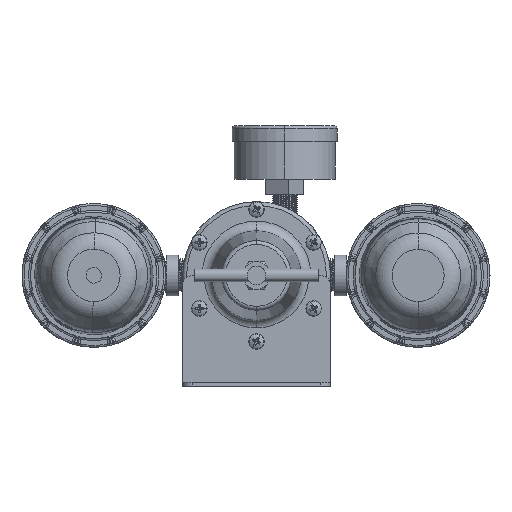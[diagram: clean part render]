
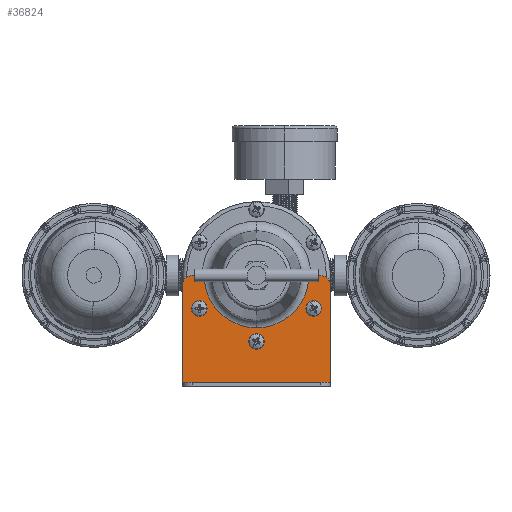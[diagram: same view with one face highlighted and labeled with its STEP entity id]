
A CAD part, front view. The second image highlights one B-rep face of the part: STEP entity #36824.
In plain terms, the highlighted planar face has unit normal (0, -1, 0) as drawn and (0, 1, 0) by its records, which use the part's own axes.
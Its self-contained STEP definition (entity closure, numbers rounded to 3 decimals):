
#227 = CARTESIAN_POINT ( 'NONE',  ( 0., 2., 0. ) ) ;
#303 = VERTEX_POINT ( 'NONE', #32234 ) ;
#948 = EDGE_LOOP ( 'NONE', ( #1146, #37773 ) ) ;
#956 = VERTEX_POINT ( 'NONE', #39445 ) ;
#968 = AXIS2_PLACEMENT_3D ( 'NONE', #227, #35557, #5334 ) ;
#1146 = ORIENTED_EDGE ( 'NONE', *, *, #19898, .F. ) ;
#1770 = DIRECTION ( 'NONE',  ( 0., 1., 0. ) ) ;
#2425 = CARTESIAN_POINT ( 'NONE',  ( -38., 2., 57. ) ) ;
#3093 = CARTESIAN_POINT ( 'NONE',  ( -33., 2., 52. ) ) ;
#3936 = VERTEX_POINT ( 'NONE', #57264 ) ;
#4248 = DIRECTION ( 'NONE',  ( 0., 0., 1. ) ) ;
#4659 = AXIS2_PLACEMENT_3D ( 'NONE', #57413, #50151, #50597 ) ;
#4918 = CARTESIAN_POINT ( 'NONE',  ( 33., 2., 52. ) ) ;
#5014 = ORIENTED_EDGE ( 'NONE', *, *, #38543, .F. ) ;
#5042 = CARTESIAN_POINT ( 'NONE',  ( 38., 2., 0. ) ) ;
#5063 = DIRECTION ( 'NONE',  ( 0., 1., 0. ) ) ;
#5334 = DIRECTION ( 'NONE',  ( 0., 0., 1. ) ) ;
#6451 = ORIENTED_EDGE ( 'NONE', *, *, #26372, .T. ) ;
#7071 = DIRECTION ( 'NONE',  ( 0., 0., 1. ) ) ;
#7944 = DIRECTION ( 'NONE',  ( 0., 0., 1. ) ) ;
#8775 = CIRCLE ( 'NONE', #24944, 2.9 ) ;
#9192 = EDGE_CURVE ( 'NONE', #27090, #40241, #38878, .T. ) ;
#9356 = CIRCLE ( 'NONE', #29885, 2. ) ;
#9508 = CARTESIAN_POINT ( 'NONE',  ( -38., 2., 57. ) ) ;
#9658 = ORIENTED_EDGE ( 'NONE', *, *, #45887, .F. ) ;
#9855 = AXIS2_PLACEMENT_3D ( 'NONE', #3093, #58818, #7944 ) ;
#10194 = CARTESIAN_POINT ( 'NONE',  ( 0., 2., 2. ) ) ;
#11217 = DIRECTION ( 'NONE',  ( 0., 0., 1. ) ) ;
#11435 = DIRECTION ( 'NONE',  ( 0., 1., 0. ) ) ;
#11499 = CARTESIAN_POINT ( 'NONE',  ( 0., 2., 23. ) ) ;
#12129 = CIRCLE ( 'NONE', #64871, 2.9 ) ;
#12788 = EDGE_CURVE ( 'NONE', #37732, #60168, #52107, .T. ) ;
#13121 = CARTESIAN_POINT ( 'NONE',  ( -29.445, 2., 37.1 ) ) ;
#13432 = EDGE_CURVE ( 'NONE', #37732, #41387, #9356, .T. ) ;
#14642 = CARTESIAN_POINT ( 'NONE',  ( 0., 2., 57. ) ) ;
#15472 = CARTESIAN_POINT ( 'NONE',  ( -38., 2., 52. ) ) ;
#16093 = FACE_OUTER_BOUND ( 'NONE', #40958, .T. ) ;
#16310 = CARTESIAN_POINT ( 'NONE',  ( 28.931, 2., 55. ) ) ;
#16335 = EDGE_CURVE ( 'NONE', #17040, #956, #36876, .T. ) ;
#17040 = VERTEX_POINT ( 'NONE', #51734 ) ;
#17080 = CARTESIAN_POINT ( 'NONE',  ( -28.931, 2., 55. ) ) ;
#19073 = VERTEX_POINT ( 'NONE', #64221 ) ;
#19703 = CIRCLE ( 'NONE', #38345, 2. ) ;
#19841 = CARTESIAN_POINT ( 'NONE',  ( -29.445, 2., 40. ) ) ;
#19898 = EDGE_CURVE ( 'NONE', #40241, #27090, #8775, .T. ) ;
#21614 = VECTOR ( 'NONE', #25530, 1000. ) ;
#22730 = CARTESIAN_POINT ( 'NONE',  ( -28.931, 2., 57. ) ) ;
#22924 = CARTESIAN_POINT ( 'NONE',  ( -26.936, 2., 55.138 ) ) ;
#23663 = DIRECTION ( 'NONE',  ( 0., 1., 0. ) ) ;
#23973 = AXIS2_PLACEMENT_3D ( 'NONE', #14642, #55341, #45123 ) ;
#24548 = ORIENTED_EDGE ( 'NONE', *, *, #16335, .F. ) ;
#24746 = FACE_BOUND ( 'NONE', #32208, .T. ) ;
#24899 = CIRCLE ( 'NONE', #9855, 5. ) ;
#24944 = AXIS2_PLACEMENT_3D ( 'NONE', #11499, #25855, #51727 ) ;
#25530 = DIRECTION ( 'NONE',  ( 0., 0., -1. ) ) ;
#25720 = CARTESIAN_POINT ( 'NONE',  ( 28.931, 2., 57. ) ) ;
#25851 = VERTEX_POINT ( 'NONE', #13121 ) ;
#25855 = DIRECTION ( 'NONE',  ( 0., 1., 0. ) ) ;
#26372 = EDGE_CURVE ( 'NONE', #35736, #3936, #24899, .T. ) ;
#26385 = AXIS2_PLACEMENT_3D ( 'NONE', #64174, #33848, #4248 ) ;
#27090 = VERTEX_POINT ( 'NONE', #46887 ) ;
#28047 = EDGE_CURVE ( 'NONE', #956, #17040, #30361, .T. ) ;
#28218 = EDGE_CURVE ( 'NONE', #303, #28577, #35887, .T. ) ;
#28560 = LINE ( 'NONE', #2425, #53157 ) ;
#28577 = VERTEX_POINT ( 'NONE', #54795 ) ;
#29885 = AXIS2_PLACEMENT_3D ( 'NONE', #16310, #11435, #11217 ) ;
#30361 = CIRCLE ( 'NONE', #26385, 2.9 ) ;
#30934 = CARTESIAN_POINT ( 'NONE',  ( -29.445, 2., 42.9 ) ) ;
#31462 = VECTOR ( 'NONE', #59931, 1000. ) ;
#31621 = ORIENTED_EDGE ( 'NONE', *, *, #42366, .T. ) ;
#32029 = EDGE_LOOP ( 'NONE', ( #42377, #24548 ) ) ;
#32208 = EDGE_LOOP ( 'NONE', ( #9658, #40472 ) ) ;
#32213 = CARTESIAN_POINT ( 'NONE',  ( -29.445, 2., 40. ) ) ;
#32234 = CARTESIAN_POINT ( 'NONE',  ( 33., 2., 57. ) ) ;
#32675 = FACE_BOUND ( 'NONE', #948, .T. ) ;
#33848 = DIRECTION ( 'NONE',  ( 0., 1., 0. ) ) ;
#35254 = CIRCLE ( 'NONE', #58725, 2.9 ) ;
#35557 = DIRECTION ( 'NONE',  ( 0., 1., 0. ) ) ;
#35736 = VERTEX_POINT ( 'NONE', #15472 ) ;
#35887 = CIRCLE ( 'NONE', #63330, 5. ) ;
#36283 = EDGE_CURVE ( 'NONE', #28577, #52441, #48571, .T. ) ;
#36824 = ADVANCED_FACE ( 'NONE', ( #24746, #61959, #32675, #16093 ), #55727, .T. ) ;
#36876 = CIRCLE ( 'NONE', #4659, 2.9 ) ;
#37732 = VERTEX_POINT ( 'NONE', #64549 ) ;
#37773 = ORIENTED_EDGE ( 'NONE', *, *, #9192, .F. ) ;
#37787 = DIRECTION ( 'NONE',  ( 1., 0., 0. ) ) ;
#38345 = AXIS2_PLACEMENT_3D ( 'NONE', #17080, #23663, #64162 ) ;
#38543 = EDGE_CURVE ( 'NONE', #19073, #52441, #63491, .T. ) ;
#38795 = EDGE_CURVE ( 'NONE', #41387, #303, #28560, .T. ) ;
#38878 = CIRCLE ( 'NONE', #43250, 2.9 ) ;
#39335 = DIRECTION ( 'NONE',  ( 0., 0., 1. ) ) ;
#39445 = CARTESIAN_POINT ( 'NONE',  ( 29.445, 2., 42.9 ) ) ;
#39915 = VERTEX_POINT ( 'NONE', #22730 ) ;
#40122 = LINE ( 'NONE', #50306, #52846 ) ;
#40241 = VERTEX_POINT ( 'NONE', #45893 ) ;
#40368 = CARTESIAN_POINT ( 'NONE',  ( 38., 2., 2. ) ) ;
#40472 = ORIENTED_EDGE ( 'NONE', *, *, #54611, .F. ) ;
#40958 = EDGE_LOOP ( 'NONE', ( #52087, #55089, #60067, #5014, #47566, #6451, #31621, #61872, #59549, #43822 ) ) ;
#41387 = VERTEX_POINT ( 'NONE', #25720 ) ;
#42366 = EDGE_CURVE ( 'NONE', #3936, #39915, #62418, .T. ) ;
#42377 = ORIENTED_EDGE ( 'NONE', *, *, #28047, .F. ) ;
#43250 = AXIS2_PLACEMENT_3D ( 'NONE', #45692, #5063, #60756 ) ;
#43822 = ORIENTED_EDGE ( 'NONE', *, *, #13432, .T. ) ;
#45123 = DIRECTION ( 'NONE',  ( 0., 0., 1. ) ) ;
#45541 = DIRECTION ( 'NONE',  ( 0., 0., 1. ) ) ;
#45692 = CARTESIAN_POINT ( 'NONE',  ( 0., 2., 23. ) ) ;
#45887 = EDGE_CURVE ( 'NONE', #57381, #25851, #12129, .T. ) ;
#45893 = CARTESIAN_POINT ( 'NONE',  ( 0., 2., 25.9 ) ) ;
#46887 = CARTESIAN_POINT ( 'NONE',  ( 0., 2., 20.1 ) ) ;
#47566 = ORIENTED_EDGE ( 'NONE', *, *, #56833, .T. ) ;
#48571 = LINE ( 'NONE', #5042, #21614 ) ;
#49389 = EDGE_CURVE ( 'NONE', #39915, #60168, #19703, .T. ) ;
#50032 = VECTOR ( 'NONE', #50657, 1000. ) ;
#50151 = DIRECTION ( 'NONE',  ( 0., 1., 0. ) ) ;
#50306 = CARTESIAN_POINT ( 'NONE',  ( -38., 2., 0. ) ) ;
#50597 = DIRECTION ( 'NONE',  ( 0., 0., 1. ) ) ;
#50657 = DIRECTION ( 'NONE',  ( 1., 0., 0. ) ) ;
#51727 = DIRECTION ( 'NONE',  ( 0., 0., 1. ) ) ;
#51734 = CARTESIAN_POINT ( 'NONE',  ( 29.445, 2., 37.1 ) ) ;
#52087 = ORIENTED_EDGE ( 'NONE', *, *, #38795, .T. ) ;
#52107 = CIRCLE ( 'NONE', #23973, 27. ) ;
#52441 = VERTEX_POINT ( 'NONE', #40368 ) ;
#52846 = VECTOR ( 'NONE', #60483, 1000. ) ;
#53157 = VECTOR ( 'NONE', #37787, 1000. ) ;
#54611 = EDGE_CURVE ( 'NONE', #25851, #57381, #35254, .T. ) ;
#54795 = CARTESIAN_POINT ( 'NONE',  ( 38., 2., 52. ) ) ;
#55089 = ORIENTED_EDGE ( 'NONE', *, *, #28218, .T. ) ;
#55341 = DIRECTION ( 'NONE',  ( 0., 1., 0. ) ) ;
#55727 = PLANE ( 'NONE',  #968 ) ;
#56833 = EDGE_CURVE ( 'NONE', #19073, #35736, #40122, .T. ) ;
#57264 = CARTESIAN_POINT ( 'NONE',  ( -33., 2., 57. ) ) ;
#57381 = VERTEX_POINT ( 'NONE', #30934 ) ;
#57413 = CARTESIAN_POINT ( 'NONE',  ( 29.445, 2., 40. ) ) ;
#58725 = AXIS2_PLACEMENT_3D ( 'NONE', #32213, #1770, #7071 ) ;
#58818 = DIRECTION ( 'NONE',  ( 0., 1., 0. ) ) ;
#59549 = ORIENTED_EDGE ( 'NONE', *, *, #12788, .F. ) ;
#59931 = DIRECTION ( 'NONE',  ( 1., 0., 0. ) ) ;
#60067 = ORIENTED_EDGE ( 'NONE', *, *, #36283, .T. ) ;
#60168 = VERTEX_POINT ( 'NONE', #22924 ) ;
#60483 = DIRECTION ( 'NONE',  ( 0., 0., 1. ) ) ;
#60756 = DIRECTION ( 'NONE',  ( 0., 0., 1. ) ) ;
#61872 = ORIENTED_EDGE ( 'NONE', *, *, #49389, .T. ) ;
#61959 = FACE_BOUND ( 'NONE', #32029, .T. ) ;
#62418 = LINE ( 'NONE', #9508, #31462 ) ;
#63330 = AXIS2_PLACEMENT_3D ( 'NONE', #4918, #65270, #45541 ) ;
#63491 = LINE ( 'NONE', #10194, #50032 ) ;
#64162 = DIRECTION ( 'NONE',  ( 0., 0., 1. ) ) ;
#64174 = CARTESIAN_POINT ( 'NONE',  ( 29.445, 2., 40. ) ) ;
#64221 = CARTESIAN_POINT ( 'NONE',  ( -38., 2., 2. ) ) ;
#64549 = CARTESIAN_POINT ( 'NONE',  ( 26.936, 2., 55.138 ) ) ;
#64871 = AXIS2_PLACEMENT_3D ( 'NONE', #19841, #65440, #39335 ) ;
#65270 = DIRECTION ( 'NONE',  ( 0., 1., 0. ) ) ;
#65440 = DIRECTION ( 'NONE',  ( 0., 1., 0. ) ) ;
